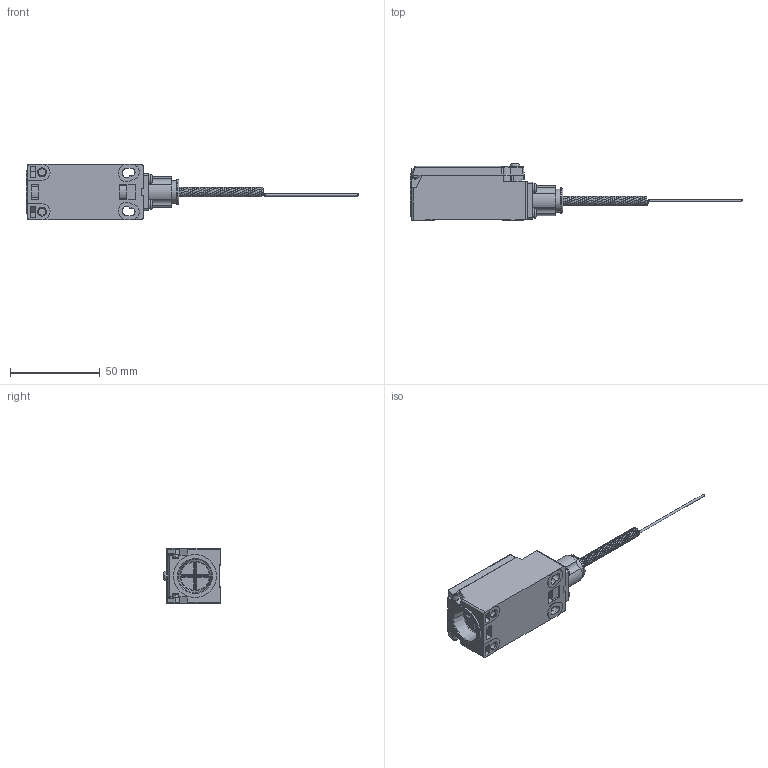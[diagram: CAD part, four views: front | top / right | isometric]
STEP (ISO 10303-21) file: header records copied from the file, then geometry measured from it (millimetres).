
FILE_DESCRIPTION(('FreeCAD Model'),'2;1');
FILE_NAME('Open CASCADE Shape Model','2026-09-09T09:59:35',(''),(''), 'Open CASCADE STEP processor 7.8','FreeCAD','Unknown');
FILE_SCHEMA(('AUTOMOTIVE_DESIGN { 1 0 10303 214 1 1 1 1 }'));
Length unit declared in the file: millimetre
Products named in the file (21): FS9669; 1; 2; 3; 4; 5; 6; 7; 8; 9; 10; 11; 12; 13; 14; 15; 16; 17; 18; 19; 20
Assembly tree (20 placements, depth 2):
  FS9669
    1
    2
    3
    4
    5
    6
    7
    8
    9
    10
    11
    12
    13
    14
    15
    16
    17
    18
    19
    20
Bounding box: 185.13 x 31.6 x 31.02 mm (x, y, z)
Volume: 29084 mm3; surface area: 31497.8 mm2
Topology: 20 solids, 20 shells, 1559 faces, 3786 edges, 2317 vertices
Faces by surface type: plane 635, torus 494, cylinder 322, cone 63, bspline 33, sphere 12
Full cylindrical faces by diameter (mm): 1.2 x1, 2.8 x7, 3 x16, 3.3 x4, 4 x1, 5.5 x5, 6 x1, 6.8 x1, 7.207 x1, 10.6 x1, 11.5 x1, 11.6 x1, 12.8 x1, 12.804 x1, 13.3 x1, 14 x1, 14.059 x1
Entity records: 71007 total; most frequent: CARTESIAN_POINT 35179, ORIENTED_EDGE 7568, DIRECTION 7354, EDGE_CURVE 3784, AXIS2_PLACEMENT_3D 2791, VERTEX_POINT 2317, LINE 1772, VECTOR 1772
